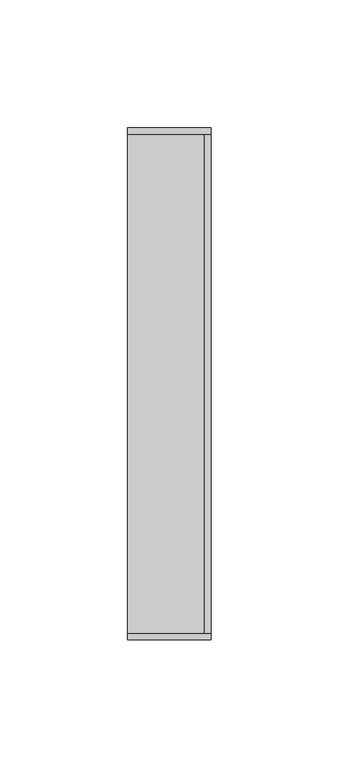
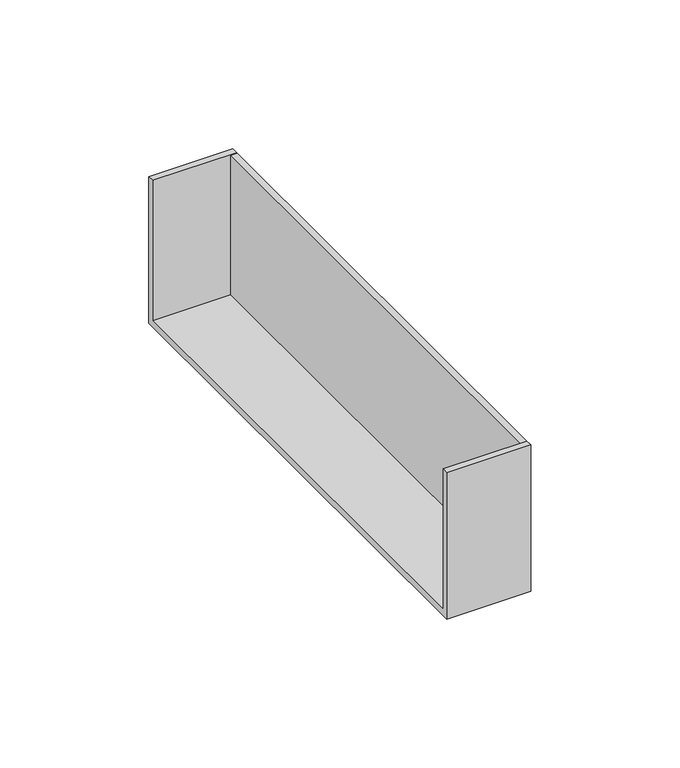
"""IFC4 building model written with IfcOpenShell, lengths in millimetres: cable carrier fitting geometry, КНС_ЗаглушкаТорцеваяLAN_ILC_DKC : Заглушка торцевая LAN_DKC."""

import ifcopenshell
import ifcopenshell.guid

model = None  # the IFC model being written
_history = None  # IfcOwnerHistory: only IFC2X3 demands one
_inside = {}  # id of a spatial element -> (the spatial element, [elements in it])
_under = {}  # id of a project, library or spatial element -> (it, [spatial elements below it])
_declared = {}  # id of a project -> (the project, [libraries it declares])
_typed = {}  # id of a type object -> (the type object, [elements of that type])
_made_of = {}  # id of a material, layer set ... -> (it, [elements and type objects made of it])


def new_model(schema):
    """Start an empty IFC model of exactly this schema.

    Asked for "IFC4X3", IfcOpenShell would pick the latest addendum, in which some entities
    have other attributes; the version numbers below select the first issue.
    IFC2X3 requires an IfcOwnerHistory on every rooted entity: one is made here for all.
    """
    global model, _history
    if schema == "IFC4X3":
        model = ifcopenshell.file(schema_version=(4, 3, 0, 0))
    else:
        model = ifcopenshell.file(schema=schema)
    _inside.clear()
    _under.clear()
    _declared.clear()
    _typed.clear()
    _made_of.clear()
    _history = None
    if model.schema == "IFC2X3":
        org = make("IfcOrganization", Name="unknown")
        user = make(
            "IfcPersonAndOrganization",
            ThePerson=make("IfcPerson", FamilyName="unknown"),
            TheOrganization=org,
        )
        app = make(
            "IfcApplication",
            ApplicationDeveloper=org,
            Version="unknown",
            ApplicationFullName="unknown",
            ApplicationIdentifier="unknown",
        )
        _history = make(
            "IfcOwnerHistory",
            OwningUser=user,
            OwningApplication=app,
            ChangeAction="ADDED",
            CreationDate=0,
        )
    return model


def make(cls, **values):
    """One entity of the class cls with the attributes given. An attribute that is None is left unset."""
    return model.create_entity(
        cls, **{name: value for name, value in values.items() if value is not None}
    )


def rooted(cls, **values):
    """An entity with a GlobalId (a new one), such as an element, a storey or a relation."""
    return make(cls, GlobalId=ifcopenshell.guid.new(), OwnerHistory=_history, **values)


def si_unit(unit_type, name, prefix=None):
    """IfcSIUnit, for example si_unit("LENGTHUNIT", "METRE", prefix="MILLI")."""
    return make("IfcSIUnit", UnitType=unit_type, Prefix=prefix, Name=name)


def assignment(units):
    """IfcUnitAssignment: the units of a project."""
    return None if units is None else make("IfcUnitAssignment", Units=units)


def point(xyz):
    """IfcCartesianPoint."""
    return None if xyz is None else make("IfcCartesianPoint", Coordinates=xyz)


def direction(xyz):
    """IfcDirection."""
    return None if xyz is None else make("IfcDirection", DirectionRatios=xyz)


def frame(location, z_axis=None, x_axis=None):
    """IfcAxis2Placement3D, a coordinate frame: its origin and axes. An axis left out is left unset."""
    return make(
        "IfcAxis2Placement3D",
        Location=point(location),
        Axis=direction(z_axis),
        RefDirection=direction(x_axis),
    )


def origin():
    """The frame at (0, 0, 0) with its axes left unset."""
    return frame((0.0, 0.0, 0.0))


def place(relative_to, where):
    """IfcLocalPlacement: puts the frame where relative to a parent placement (None: the world)."""
    return make(
        "IfcLocalPlacement", PlacementRelTo=relative_to, RelativePlacement=where
    )


def context(
    kind, dimensions, precision=None, world=None, true_north=None, identifier=None
):
    """IfcGeometricRepresentationContext, for example the 3D "Model" context."""
    return make(
        "IfcGeometricRepresentationContext",
        ContextIdentifier=identifier,
        ContextType=kind,
        CoordinateSpaceDimension=dimensions,
        Precision=precision,
        WorldCoordinateSystem=world,
        TrueNorth=true_north,
    )


def project(units=None, contexts=None):
    """IfcProject with its units and contexts."""
    return rooted(
        "IfcProject",
        Name="project",
        RepresentationContexts=contexts,
        UnitsInContext=assignment(units),
    )


def spatial(cls, under=None, at=None, **own):
    """A site, building, storey or space (cls), placed at a placement, below another one or the project."""
    s = rooted(cls, ObjectPlacement=at, **own)
    if under is not None:
        _under.setdefault(under.id(), (under, []))[1].append(s)
    return s


def polyline(points):
    """IfcPolyline through the points."""
    return make("IfcPolyline", Points=[point(p) for p in points])


def outline(outer, holes=None, kind="AREA"):
    """IfcArbitraryClosedProfileDef: a profile drawn as a closed curve; with holes, ...WithVoids."""
    if holes is None:
        return make("IfcArbitraryClosedProfileDef", ProfileType=kind, OuterCurve=outer)
    return make(
        "IfcArbitraryProfileDefWithVoids",
        ProfileType=kind,
        OuterCurve=outer,
        InnerCurves=holes,
    )


def extrude(swept, where, along, depth):
    """IfcExtrudedAreaSolid: the profile swept, set in the frame where, extruded along a direction by depth."""
    return make(
        "IfcExtrudedAreaSolid",
        SweptArea=swept,
        Position=where,
        ExtrudedDirection=direction(along),
        Depth=depth,
    )


def shape(context_of_items, identifier, shape_type, items):
    """IfcShapeRepresentation: the items that make up one representation, for example the "Body"."""
    return make(
        "IfcShapeRepresentation",
        ContextOfItems=context_of_items,
        RepresentationIdentifier=identifier,
        RepresentationType=shape_type,
        Items=items,
    )


def source(mapping_origin, context_of_items, identifier, shape_type, items):
    """IfcRepresentationMap: a shape defined once, which mapped items show again and again."""
    return make(
        "IfcRepresentationMap",
        MappingOrigin=mapping_origin,
        MappedRepresentation=shape(context_of_items, identifier, shape_type, items),
    )


def transform(
    local_origin,
    x_axis=None,
    y_axis=None,
    z_axis=None,
    scale=None,
    scale2=None,
    scale3=None,
    uniform=True,
):
    """IfcCartesianTransformationOperator3D, or its non-uniform kind. x_axis, y_axis, z_axis: its Axis1, 2, 3."""
    if uniform:
        return make(
            "IfcCartesianTransformationOperator3D",
            Axis1=direction(x_axis),
            Axis2=direction(y_axis),
            LocalOrigin=point(local_origin),
            Scale=scale,
            Axis3=direction(z_axis),
        )
    return make(
        "IfcCartesianTransformationOperator3DnonUniform",
        Axis1=direction(x_axis),
        Axis2=direction(y_axis),
        LocalOrigin=point(local_origin),
        Scale=scale,
        Axis3=direction(z_axis),
        Scale2=scale2,
        Scale3=scale3,
    )


def mapped(mapping_source, mapping_target):
    """IfcMappedItem: shows the shape of a source again, moved by a transform."""
    return make(
        "IfcMappedItem", MappingSource=mapping_source, MappingTarget=mapping_target
    )


def made_of(thing, what):
    """Note that an element or type object is made of a material, layer set ...; save() writes the relation."""
    if what is not None:
        _made_of.setdefault(what.id(), (what, []))[1].append(thing)
    return thing


def element(
    cls,
    number,
    at=None,
    inside=None,
    cuts=None,
    type_object=None,
    material=None,
    context=None,
    identifier="Body",
    shape_type=None,
    held_by="IfcProductDefinitionShape",
    body=None,
    shapes=None,
    **own,
):
    """One element of the class cls, such as IfcWall. Its Tag is "e" and its number.

    at: its placement. inside: the storey or other place that contains it. cuts: it is an
    opening in that element (IfcRelVoidsElement). A single representation is given by context,
    identifier, shape_type and body (its items); several are given by shapes. held_by: the class
    of the entity that holds the representations. save() writes the other relations.
    """
    e = rooted(cls, Tag="e%d" % number, ObjectPlacement=at, **own)
    if body is not None:
        shapes = [shape(context, identifier, shape_type, body)]
    if shapes is not None:
        e.Representation = make(held_by, Representations=shapes)
    if inside is not None:
        _inside.setdefault(inside.id(), (inside, []))[1].append(e)
    if cuts is not None:
        rooted(
            "IfcRelVoidsElement", RelatingBuildingElement=cuts, RelatedOpeningElement=e
        )
    if type_object is not None:
        _typed.setdefault(type_object.id(), (type_object, []))[1].append(e)
    return made_of(e, material)


def aggregate(whole, parts):
    """IfcRelAggregates: a whole, such as a stair, and the parts it consists of."""
    return rooted("IfcRelAggregates", RelatingObject=whole, RelatedObjects=parts)


def save(model, path):
    """Write the relations noted so far, then the file.

    IfcRelAggregates (storeys below a building ...), IfcRelContainedInSpatialStructure (elements
    in a storey), IfcRelDefinesByType, IfcRelAssociatesMaterial and IfcRelDeclares: one each for
    every whole, place, type object, material and project.
    """
    for whole, parts in _under.values():
        aggregate(whole, parts)
    for where, things in _inside.values():
        rooted(
            "IfcRelContainedInSpatialStructure",
            RelatedElements=things,
            RelatingStructure=where,
        )
    for kind, things in _typed.values():
        rooted("IfcRelDefinesByType", RelatedObjects=things, RelatingType=kind)
    for what, things in _made_of.values():
        rooted("IfcRelAssociatesMaterial", RelatedObjects=things, RelatingMaterial=what)
    for by, libraries in _declared.values():
        rooted("IfcRelDeclares", RelatingContext=by, RelatedDefinitions=libraries)
    model.write(path)


def cable_carrier_fitting_521029ce(model_context):
    return source(origin(), model_context, "Body", "SweptSolid", [
        extrude(outline(polyline([(100.0, -30.0), (-100.0, -30.0), (-100.0, 30.0), (-97.5, 30.0), (-97.5, -27.5), (97.5, -27.5), (97.5, 30.0), (100.0, 30.0), (100.0, -30.0)])), frame((-32.5, 0.0, 0.0), z_axis=(1.0, 0.0, 0.0), x_axis=(0.0, 1.0, 0.0)), (0.0, 0.0, 1.0), 32.5),
        extrude(outline(polyline([(0.0, 97.5), (0.0, -97.5), (-2.5, -97.5), (-2.5, 97.5), (0.0, 97.5)])), frame((0.0, 0.0, -30.0), z_axis=(0.0, 0.0, 1.0), x_axis=(1.0, 0.0, 0.0)), (0.0, 0.0, 1.0), 60.0),
    ])


if __name__ == "__main__":
    model = new_model("IFC4")
    model_context = context("Model", 3, world=origin())
    ifc_project = project(units=[si_unit("LENGTHUNIT", "METRE", prefix="MILLI")], contexts=[model_context])
    site = spatial("IfcSite", under=ifc_project)
    building = spatial("IfcBuilding", under=site)
    placement = place(None, origin())
    cable_carrier_fitting_shape = cable_carrier_fitting_521029ce(model_context)
    element("IfcCableCarrierFitting", 1, ObjectType="КНС_ЗаглушкаТорцеваяLAN_ILC_DKC : Заглушка торцевая LAN_DKC", at=placement, inside=building, context=model_context, shape_type="MappedRepresentation", body=[
        mapped(cable_carrier_fitting_shape, transform((0.0, 0.0, 0.0), x_axis=(1.0, 0.0, 0.0), y_axis=(0.0, 1.0, 0.0), z_axis=(0.0, 0.0, 1.0))),
    ])
    save(model, "model.ifc")
